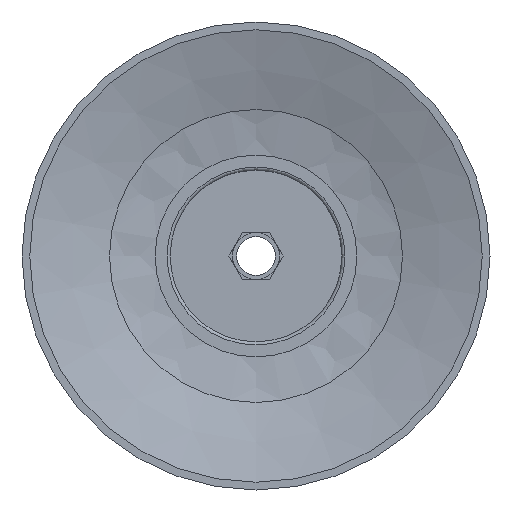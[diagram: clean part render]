
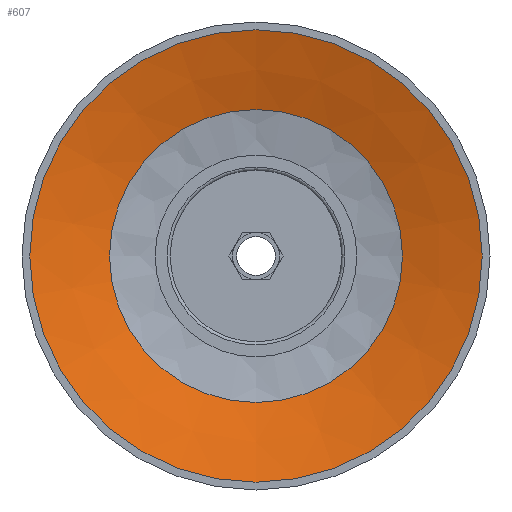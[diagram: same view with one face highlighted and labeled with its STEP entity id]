
A CAD part, front view. The second image highlights one B-rep face of the part: STEP entity #607.
In plain terms, the highlighted conical face has half-angle 73 degrees and reference radius 7.958 mm.
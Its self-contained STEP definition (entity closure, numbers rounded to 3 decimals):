
#607=ADVANCED_FACE('',(#893,#894),#895,.F.);
#893=FACE_BOUND('',#1276,.T.);
#894=FACE_OUTER_BOUND('',#1277,.T.);
#895=CONICAL_SURFACE('',#1278,7.958,1.274);
#1276=EDGE_LOOP('',(#2327));
#1277=EDGE_LOOP('',(#2328));
#1278=AXIS2_PLACEMENT_3D('',#2329,#2330,#2331);
#2327=ORIENTED_EDGE('',*,*,#2874,.T.);
#2328=ORIENTED_EDGE('',*,*,#2875,.T.);
#2329=CARTESIAN_POINT('',(0.0,9.363,0.0));
#2330=DIRECTION('',(-0.0,-1.0,0.));
#2331=DIRECTION('',(0.0,0.,-1.0));
#2874=EDGE_CURVE('',#3273,#3273,#3274,.T.);
#2875=EDGE_CURVE('',#3275,#3275,#3276,.T.);
#3273=VERTEX_POINT('',#4139);
#3274=CIRCLE('',#4140,9.388);
#3275=VERTEX_POINT('',#4141);
#3276=CIRCLE('',#4142,14.5);
#4139=CARTESIAN_POINT('',(0.0,8.926,-9.388));
#4140=AXIS2_PLACEMENT_3D('',#4904,#4905,#4906);
#4141=CARTESIAN_POINT('',(0.0,7.363,-14.5));
#4142=AXIS2_PLACEMENT_3D('',#4907,#4908,#4909);
#4904=CARTESIAN_POINT('',(0.0,8.926,0.0));
#4905=DIRECTION('',(0.0,1.0,0.));
#4906=DIRECTION('',(0.0,0.,-1.0));
#4907=CARTESIAN_POINT('',(0.0,7.363,0.0));
#4908=DIRECTION('',(0.0,-1.0,0.));
#4909=DIRECTION('',(0.0,0.,-1.0));
